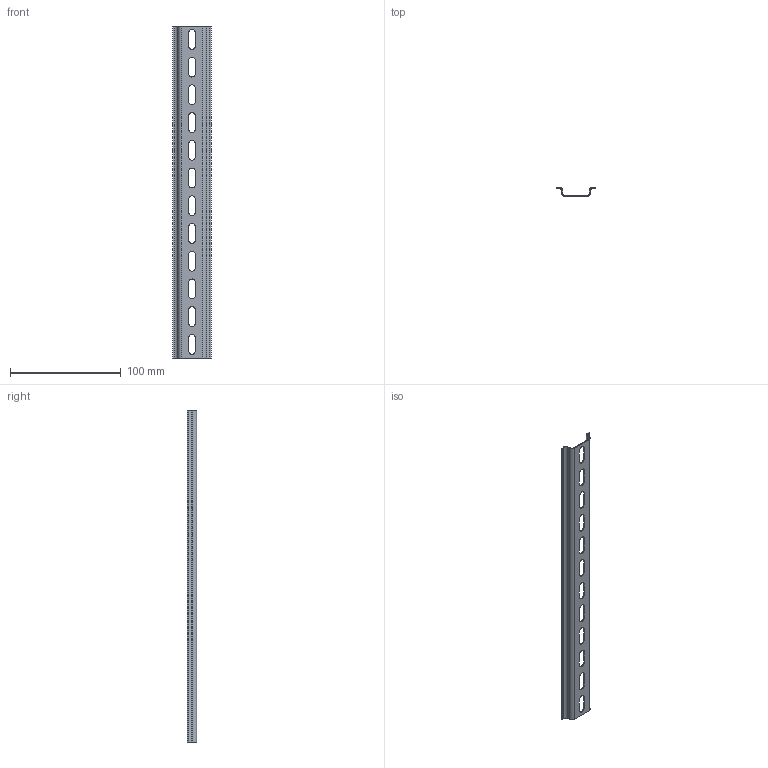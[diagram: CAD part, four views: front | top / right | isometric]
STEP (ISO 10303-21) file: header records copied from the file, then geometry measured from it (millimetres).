
FILE_DESCRIPTION (( 'STEP AP214' ), '1' );
FILE_NAME ('DIN-ðåéêà 300ìì õ 0,8 ìì.STEP', '2025-10-22T12:48:56', ( '' ), ( '' ), 'SwSTEP 2.0', 'SolidWorks 2018', '' );
FILE_SCHEMA (( 'AUTOMOTIVE_DESIGN' ));
Length unit declared in the file: millimetre
Products named in the file (1): DIN-ðåéêà 300ìì õ 0,8 ìì
Bounding box: 35.2 x 8.3 x 300 mm (x, y, z)
Volume: 9874.2 mm3; surface area: 25648.9 mm2
Topology: 1 solids, 1 shells, 98 faces, 256 edges, 160 vertices
Faces by surface type: plane 54, cylinder 44
Entity records: 3074 total; most frequent: DIRECTION 542, CARTESIAN_POINT 515, ORIENTED_EDGE 512, EDGE_CURVE 256, AXIS2_PLACEMENT_3D 187, VECTOR 168, LINE 168, VERTEX_POINT 160
